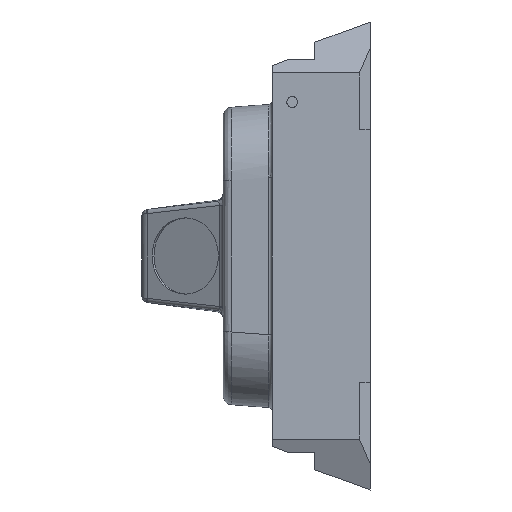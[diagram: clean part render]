
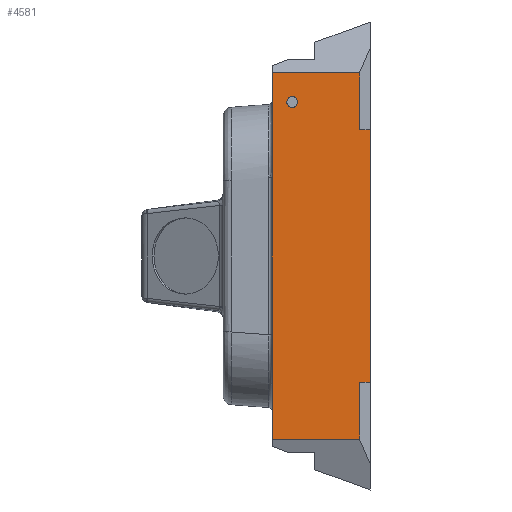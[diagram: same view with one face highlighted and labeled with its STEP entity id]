
A CAD part, left-side view. The second image highlights one B-rep face of the part: STEP entity #4581.
In plain terms, the highlighted planar face has unit normal (-1, 0, 0).
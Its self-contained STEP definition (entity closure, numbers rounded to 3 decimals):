
#44 = CARTESIAN_POINT ( 'NONE',  ( 0., 21.5, -22. ) ) ;
#132 = CARTESIAN_POINT ( 'NONE',  ( 0., 58.5, -14. ) ) ;
#208 = EDGE_LOOP ( 'NONE', ( #4415, #1287, #9694, #3466, #4370, #5278, #2711, #839 ) ) ;
#552 = EDGE_CURVE ( 'NONE', #2653, #8138, #3132, .T. ) ;
#697 = EDGE_CURVE ( 'NONE', #11085, #7694, #10988, .T. ) ;
#799 = CARTESIAN_POINT ( 'NONE',  ( 0., 3., -29.6 ) ) ;
#839 = ORIENTED_EDGE ( 'NONE', *, *, #1509, .T. ) ;
#864 = FACE_BOUND ( 'NONE', #9115, .T. ) ;
#881 = VERTEX_POINT ( 'NONE', #5468 ) ;
#936 = DIRECTION ( 'NONE',  ( 0., 0., 1. ) ) ;
#941 = VECTOR ( 'NONE', #6939, 1000. ) ;
#1144 = CARTESIAN_POINT ( 'NONE',  ( 0., 27., -14. ) ) ;
#1224 = CARTESIAN_POINT ( 'NONE',  ( 0., 27., -9.827 ) ) ;
#1233 = LINE ( 'NONE', #9949, #5007 ) ;
#1287 = ORIENTED_EDGE ( 'NONE', *, *, #3711, .F. ) ;
#1325 = CARTESIAN_POINT ( 'NONE',  ( 0., 3., -14. ) ) ;
#1509 = EDGE_CURVE ( 'NONE', #881, #8138, #1233, .T. ) ;
#1583 = DIRECTION ( 'NONE',  ( 0., 1., 0. ) ) ;
#1634 = CARTESIAN_POINT ( 'NONE',  ( 0., 0., -29.6 ) ) ;
#1825 = DIRECTION ( 'NONE',  ( -1., 0., 0. ) ) ;
#2003 = EDGE_CURVE ( 'NONE', #8680, #3888, #6967, .T. ) ;
#2127 = LINE ( 'NONE', #1224, #3605 ) ;
#2158 = VECTOR ( 'NONE', #10401, 1000. ) ;
#2243 = LINE ( 'NONE', #5655, #941 ) ;
#2479 = DIRECTION ( 'NONE',  ( 0., 0., 1. ) ) ;
#2653 = VERTEX_POINT ( 'NONE', #4263 ) ;
#2711 = ORIENTED_EDGE ( 'NONE', *, *, #2899, .F. ) ;
#2899 = EDGE_CURVE ( 'NONE', #881, #3360, #2127, .T. ) ;
#2987 = DIRECTION ( 'NONE',  ( 0., -1., 0. ) ) ;
#3132 = LINE ( 'NONE', #6549, #8301 ) ;
#3260 = CIRCLE ( 'NONE', #5394, 1.5 ) ;
#3271 = LINE ( 'NONE', #1634, #9028 ) ;
#3360 = VERTEX_POINT ( 'NONE', #1144 ) ;
#3452 = CARTESIAN_POINT ( 'NONE',  ( 0., 0., -2.3 ) ) ;
#3466 = ORIENTED_EDGE ( 'NONE', *, *, #8783, .T. ) ;
#3605 = VECTOR ( 'NONE', #8298, 1000. ) ;
#3711 = EDGE_CURVE ( 'NONE', #3888, #2653, #2243, .T. ) ;
#3715 = LINE ( 'NONE', #132, #10633 ) ;
#3888 = VERTEX_POINT ( 'NONE', #5087 ) ;
#4071 = VERTEX_POINT ( 'NONE', #1325 ) ;
#4263 = CARTESIAN_POINT ( 'NONE',  ( 0., 3., -99. ) ) ;
#4331 = ORIENTED_EDGE ( 'NONE', *, *, #5367, .F. ) ;
#4370 = ORIENTED_EDGE ( 'NONE', *, *, #9396, .T. ) ;
#4415 = ORIENTED_EDGE ( 'NONE', *, *, #552, .F. ) ;
#4581 = ADVANCED_FACE ( 'NONE', ( #5802, #864 ), #10965, .T. ) ;
#4947 = DIRECTION ( 'NONE',  ( -1., 0., 0. ) ) ;
#5007 = VECTOR ( 'NONE', #2987, 1000. ) ;
#5082 = DIRECTION ( 'NONE',  ( 0., 0., 1. ) ) ;
#5087 = CARTESIAN_POINT ( 'NONE',  ( 0., 0., -99. ) ) ;
#5278 = ORIENTED_EDGE ( 'NONE', *, *, #8933, .F. ) ;
#5367 = EDGE_CURVE ( 'NONE', #7694, #11085, #3260, .T. ) ;
#5394 = AXIS2_PLACEMENT_3D ( 'NONE', #44, #7662, #936 ) ;
#5468 = CARTESIAN_POINT ( 'NONE',  ( 0., 27., -114.6 ) ) ;
#5655 = CARTESIAN_POINT ( 'NONE',  ( 0., 0., -99. ) ) ;
#5802 = FACE_OUTER_BOUND ( 'NONE', #208, .T. ) ;
#5903 = DIRECTION ( 'NONE',  ( 0., 0., 1. ) ) ;
#6160 = CARTESIAN_POINT ( 'NONE',  ( 0., 3., -114.6 ) ) ;
#6549 = CARTESIAN_POINT ( 'NONE',  ( 0., 3., -99. ) ) ;
#6939 = DIRECTION ( 'NONE',  ( 0., 1., 0. ) ) ;
#6967 = LINE ( 'NONE', #3452, #2158 ) ;
#7662 = DIRECTION ( 'NONE',  ( -1., 0., 0. ) ) ;
#7694 = VERTEX_POINT ( 'NONE', #10736 ) ;
#8138 = VERTEX_POINT ( 'NONE', #6160 ) ;
#8152 = CARTESIAN_POINT ( 'NONE',  ( 0., 0., -29.6 ) ) ;
#8274 = VERTEX_POINT ( 'NONE', #9861 ) ;
#8298 = DIRECTION ( 'NONE',  ( 0., 0., 1. ) ) ;
#8301 = VECTOR ( 'NONE', #9981, 1000. ) ;
#8485 = AXIS2_PLACEMENT_3D ( 'NONE', #10306, #1825, #5082 ) ;
#8680 = VERTEX_POINT ( 'NONE', #8152 ) ;
#8691 = ORIENTED_EDGE ( 'NONE', *, *, #697, .F. ) ;
#8783 = EDGE_CURVE ( 'NONE', #8680, #8274, #3271, .T. ) ;
#8933 = EDGE_CURVE ( 'NONE', #3360, #4071, #3715, .T. ) ;
#9028 = VECTOR ( 'NONE', #1583, 1000. ) ;
#9115 = EDGE_LOOP ( 'NONE', ( #8691, #4331 ) ) ;
#9377 = AXIS2_PLACEMENT_3D ( 'NONE', #9449, #4947, #5903 ) ;
#9396 = EDGE_CURVE ( 'NONE', #8274, #4071, #10165, .T. ) ;
#9449 = CARTESIAN_POINT ( 'NONE',  ( 0., 0., 0. ) ) ;
#9544 = VECTOR ( 'NONE', #2479, 1000. ) ;
#9661 = DIRECTION ( 'NONE',  ( 0., -1., 0. ) ) ;
#9694 = ORIENTED_EDGE ( 'NONE', *, *, #2003, .F. ) ;
#9861 = CARTESIAN_POINT ( 'NONE',  ( 0., 3., -29.6 ) ) ;
#9949 = CARTESIAN_POINT ( 'NONE',  ( 0., 58.5, -114.6 ) ) ;
#9981 = DIRECTION ( 'NONE',  ( 0., 0., -1. ) ) ;
#10165 = LINE ( 'NONE', #799, #9544 ) ;
#10306 = CARTESIAN_POINT ( 'NONE',  ( 0., 21.5, -22. ) ) ;
#10401 = DIRECTION ( 'NONE',  ( 0., 0., -1. ) ) ;
#10574 = CARTESIAN_POINT ( 'NONE',  ( 0., 21.5, -20.5 ) ) ;
#10633 = VECTOR ( 'NONE', #9661, 1000. ) ;
#10736 = CARTESIAN_POINT ( 'NONE',  ( 0., 21.5, -23.5 ) ) ;
#10965 = PLANE ( 'NONE',  #9377 ) ;
#10988 = CIRCLE ( 'NONE', #8485, 1.5 ) ;
#11085 = VERTEX_POINT ( 'NONE', #10574 ) ;
